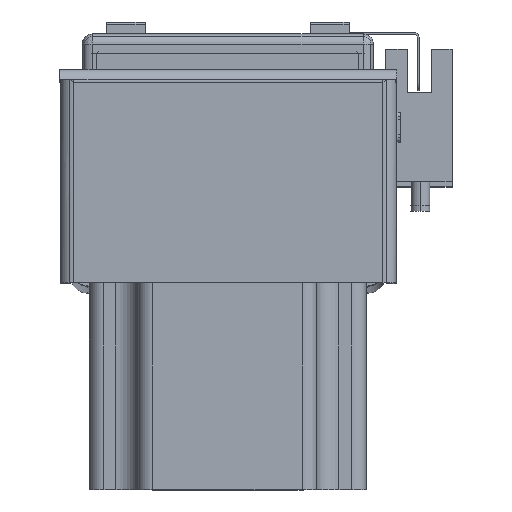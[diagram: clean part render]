
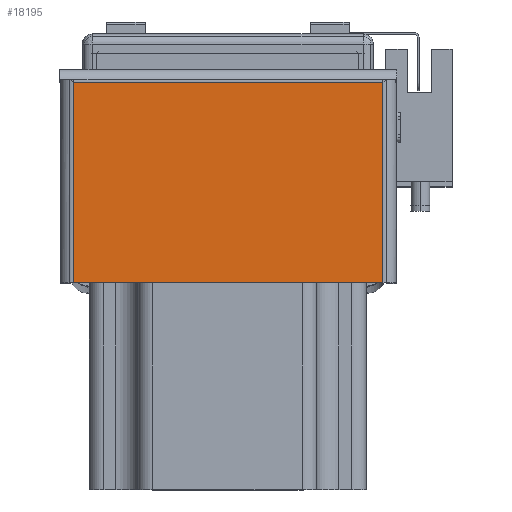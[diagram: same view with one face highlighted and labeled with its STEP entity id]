
A CAD part, top view. The second image highlights one B-rep face of the part: STEP entity #18195.
In plain terms, the highlighted planar face has unit normal (0, 0, 1) as drawn and (1, 0, 0) by its records, which use the part's own axes.
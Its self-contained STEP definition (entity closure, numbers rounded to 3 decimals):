
#2649 = FACE_OUTER_BOUND ( 'NONE', #12376, .T. ) ;
#3483 = VERTEX_POINT ( 'NONE', #16609 ) ;
#3487 = VERTEX_POINT ( 'NONE', #16607 ) ;
#3614 = VERTEX_POINT ( 'NONE', #16917 ) ;
#3693 = VERTEX_POINT ( 'NONE', #17041 ) ;
#4701 = ORIENTED_EDGE ( 'NONE', *, *, #21399, .T. ) ;
#4735 = ORIENTED_EDGE ( 'NONE', *, *, #21354, .T. ) ;
#4749 = ORIENTED_EDGE ( 'NONE', *, *, #21431, .F. ) ;
#4753 = ORIENTED_EDGE ( 'NONE', *, *, #21269, .T. ) ;
#12376 = EDGE_LOOP ( 'NONE', ( #4735, #4701, #4753, #4749 ) ) ;
#13449 = DIRECTION ( 'NONE',  ( 0., 0., 1. ) ) ;
#13468 = PLANE ( 'NONE',  #15055 ) ;
#13470 = DIRECTION ( 'NONE',  ( -1., 0., 0. ) ) ;
#13480 = CARTESIAN_POINT ( 'NONE',  ( 2., 42., -32.6 ) ) ;
#15055 = AXIS2_PLACEMENT_3D ( 'NONE', #13480, #13470, #13449 ) ;
#16607 = CARTESIAN_POINT ( 'NONE',  ( 2., 41.263, 31.863 ) ) ;
#16609 = CARTESIAN_POINT ( 'NONE',  ( 2., 41.263, -31.863 ) ) ;
#16917 = CARTESIAN_POINT ( 'NONE',  ( 2., 0., -31.863 ) ) ;
#17041 = CARTESIAN_POINT ( 'NONE',  ( 2., 0., 31.863 ) ) ;
#18195 = ADVANCED_FACE ( 'NONE', ( #2649 ), #13468, .F. ) ;
#18715 = LINE ( 'NONE', #34875, #18729 ) ;
#18729 = VECTOR ( 'NONE', #34905, 1000. ) ;
#18805 = LINE ( 'NONE', #35029, #18900 ) ;
#18900 = VECTOR ( 'NONE', #35042, 1000. ) ;
#18916 = LINE ( 'NONE', #35165, #18964 ) ;
#18953 = VECTOR ( 'NONE', #35124, 1000. ) ;
#18964 = VECTOR ( 'NONE', #35137, 1000. ) ;
#18983 = LINE ( 'NONE', #35116, #18953 ) ;
#21269 = EDGE_CURVE ( 'NONE', #3693, #3614, #18715, .T. ) ;
#21354 = EDGE_CURVE ( 'NONE', #3483, #3487, #18805, .T. ) ;
#21399 = EDGE_CURVE ( 'NONE', #3487, #3693, #18983, .T. ) ;
#21431 = EDGE_CURVE ( 'NONE', #3483, #3614, #18916, .T. ) ;
#34875 = CARTESIAN_POINT ( 'NONE',  ( 2., 0., -32.6 ) ) ;
#34905 = DIRECTION ( 'NONE',  ( 0., 0., -1. ) ) ;
#35029 = CARTESIAN_POINT ( 'NONE',  ( 2., 41.263, -31.863 ) ) ;
#35042 = DIRECTION ( 'NONE',  ( 0., 0., 1. ) ) ;
#35116 = CARTESIAN_POINT ( 'NONE',  ( 2., 42., 31.863 ) ) ;
#35124 = DIRECTION ( 'NONE',  ( 0., -1., 0. ) ) ;
#35137 = DIRECTION ( 'NONE',  ( 0., -1., 0. ) ) ;
#35165 = CARTESIAN_POINT ( 'NONE',  ( 2., 42., -31.863 ) ) ;
